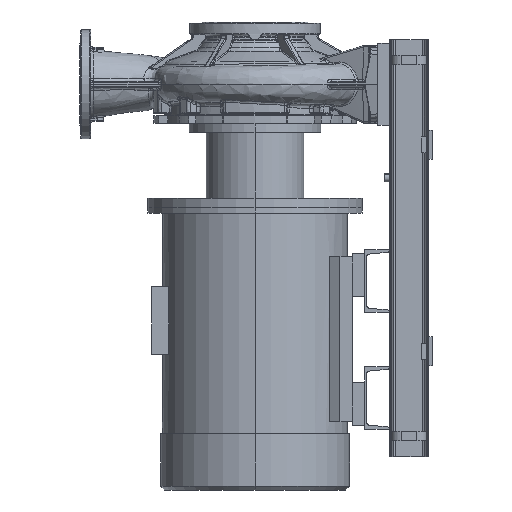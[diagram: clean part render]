
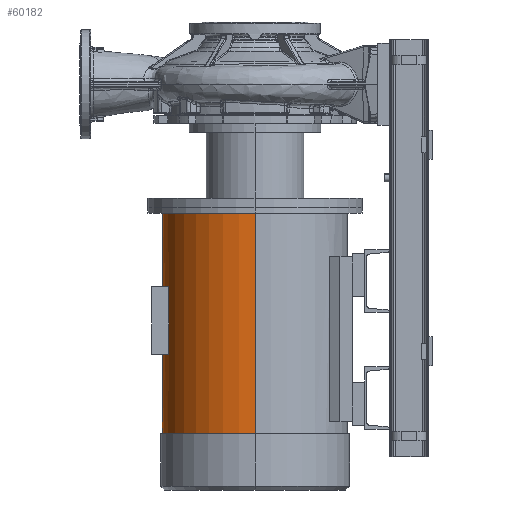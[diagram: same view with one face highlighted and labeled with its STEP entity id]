
A CAD part, left-side view. The second image highlights one B-rep face of the part: STEP entity #60182.
In plain terms, the highlighted cylindrical face has radius 237.5 mm (diameter 475 mm), a partial arc.
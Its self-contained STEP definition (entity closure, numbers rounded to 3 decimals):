
#229 = LINE ( 'NONE', #18828, #45956 ) ;
#8909 = VERTEX_POINT ( 'NONE', #24181 ) ;
#9633 = CIRCLE ( 'NONE', #42228, 237.5 ) ;
#13275 = DIRECTION ( 'NONE',  ( -1., 0., 0. ) ) ;
#15011 = VERTEX_POINT ( 'NONE', #55798 ) ;
#15881 = ORIENTED_EDGE ( 'NONE', *, *, #105074, .T. ) ;
#18631 = EDGE_CURVE ( 'NONE', #58511, #87261, #24638, .T. ) ;
#18828 = CARTESIAN_POINT ( 'NONE',  ( 87., 220.992, -1040.8 ) ) ;
#19387 = DIRECTION ( 'NONE',  ( -1., 0., 0. ) ) ;
#24181 = CARTESIAN_POINT ( 'NONE',  ( 237.5, 0., -330.8 ) ) ;
#24510 = LINE ( 'NONE', #54888, #73530 ) ;
#24638 = CIRCLE ( 'NONE', #68726, 237.5 ) ;
#26471 = CARTESIAN_POINT ( 'NONE',  ( 0., 0., -692.8 ) ) ;
#26836 = AXIS2_PLACEMENT_3D ( 'NONE', #75725, #107172, #66082 ) ;
#30721 = EDGE_LOOP ( 'NONE', ( #121647, #92861, #61223, #80899 ) ) ;
#32398 = VERTEX_POINT ( 'NONE', #73549 ) ;
#37875 = DIRECTION ( 'NONE',  ( 0., 0., -1. ) ) ;
#39651 = ORIENTED_EDGE ( 'NONE', *, *, #78105, .F. ) ;
#42228 = AXIS2_PLACEMENT_3D ( 'NONE', #76183, #128137, #87187 ) ;
#45956 = VECTOR ( 'NONE', #91944, 1000. ) ;
#51564 = VERTEX_POINT ( 'NONE', #132919 ) ;
#52895 = EDGE_CURVE ( 'NONE', #87261, #15011, #229, .T. ) ;
#53538 = EDGE_CURVE ( 'NONE', #105510, #123529, #9633, .T. ) ;
#54888 = CARTESIAN_POINT ( 'NONE',  ( 237.5, 0., -1040.8 ) ) ;
#55181 = CARTESIAN_POINT ( 'NONE',  ( -237.5, 0., -896.8 ) ) ;
#55798 = CARTESIAN_POINT ( 'NONE',  ( 87., 220.992, -518.8 ) ) ;
#56292 = DIRECTION ( 'NONE',  ( 0., 0., -1. ) ) ;
#57709 = EDGE_CURVE ( 'NONE', #15011, #51564, #70472, .T. ) ;
#58314 = ORIENTED_EDGE ( 'NONE', *, *, #125818, .T. ) ;
#58511 = VERTEX_POINT ( 'NONE', #82998 ) ;
#60182 = ADVANCED_FACE ( 'NONE', ( #125196, #69687 ), #104003, .T. ) ;
#61223 = ORIENTED_EDGE ( 'NONE', *, *, #52895, .T. ) ;
#61774 = LINE ( 'NONE', #88318, #63470 ) ;
#63090 = CARTESIAN_POINT ( 'NONE',  ( 237.5, 0., -896.8 ) ) ;
#63470 = VECTOR ( 'NONE', #56292, 1000. ) ;
#65318 = DIRECTION ( 'NONE',  ( 0., 0., -1. ) ) ;
#66082 = DIRECTION ( 'NONE',  ( -1., 0., 0. ) ) ;
#67494 = AXIS2_PLACEMENT_3D ( 'NONE', #114700, #125251, #19387 ) ;
#68431 = DIRECTION ( 'NONE',  ( 1., 0., 0. ) ) ;
#68726 = AXIS2_PLACEMENT_3D ( 'NONE', #26471, #37875, #68431 ) ;
#69687 = FACE_OUTER_BOUND ( 'NONE', #107507, .T. ) ;
#70472 = CIRCLE ( 'NONE', #95150, 237.5 ) ;
#72428 = CARTESIAN_POINT ( 'NONE',  ( 87., 220.992, -692.8 ) ) ;
#73530 = VECTOR ( 'NONE', #65318, 1000. ) ;
#73549 = CARTESIAN_POINT ( 'NONE',  ( -237.5, 0., -330.8 ) ) ;
#75725 = CARTESIAN_POINT ( 'NONE',  ( 0., 0., -330.8 ) ) ;
#76183 = CARTESIAN_POINT ( 'NONE',  ( 0., 0., -896.8 ) ) ;
#78105 = EDGE_CURVE ( 'NONE', #32398, #105510, #61774, .T. ) ;
#80899 = ORIENTED_EDGE ( 'NONE', *, *, #57709, .T. ) ;
#82998 = CARTESIAN_POINT ( 'NONE',  ( -87., 220.992, -692.8 ) ) ;
#87187 = DIRECTION ( 'NONE',  ( -1., 0., 0. ) ) ;
#87261 = VERTEX_POINT ( 'NONE', #72428 ) ;
#88318 = CARTESIAN_POINT ( 'NONE',  ( -237.5, 0., -1040.8 ) ) ;
#90717 = LINE ( 'NONE', #112574, #92402 ) ;
#91944 = DIRECTION ( 'NONE',  ( 0., 0., 1. ) ) ;
#92402 = VECTOR ( 'NONE', #123094, 1000. ) ;
#92861 = ORIENTED_EDGE ( 'NONE', *, *, #18631, .T. ) ;
#95150 = AXIS2_PLACEMENT_3D ( 'NONE', #127827, #116836, #13275 ) ;
#96432 = CIRCLE ( 'NONE', #26836, 237.5 ) ;
#97506 = ORIENTED_EDGE ( 'NONE', *, *, #53538, .F. ) ;
#100870 = EDGE_CURVE ( 'NONE', #51564, #58511, #90717, .T. ) ;
#104003 = CYLINDRICAL_SURFACE ( 'NONE', #67494, 237.5 ) ;
#105074 = EDGE_CURVE ( 'NONE', #32398, #8909, #96432, .T. ) ;
#105510 = VERTEX_POINT ( 'NONE', #55181 ) ;
#107172 = DIRECTION ( 'NONE',  ( 0., 0., -1. ) ) ;
#107507 = EDGE_LOOP ( 'NONE', ( #15881, #58314, #97506, #39651 ) ) ;
#112574 = CARTESIAN_POINT ( 'NONE',  ( -87., 220.992, -1040.8 ) ) ;
#114700 = CARTESIAN_POINT ( 'NONE',  ( 0., 0., -1040.8 ) ) ;
#116836 = DIRECTION ( 'NONE',  ( 0., 0., 1. ) ) ;
#121647 = ORIENTED_EDGE ( 'NONE', *, *, #100870, .T. ) ;
#123094 = DIRECTION ( 'NONE',  ( 0., 0., -1. ) ) ;
#123529 = VERTEX_POINT ( 'NONE', #63090 ) ;
#125196 = FACE_BOUND ( 'NONE', #30721, .T. ) ;
#125251 = DIRECTION ( 'NONE',  ( 0., 0., -1. ) ) ;
#125818 = EDGE_CURVE ( 'NONE', #8909, #123529, #24510, .T. ) ;
#127827 = CARTESIAN_POINT ( 'NONE',  ( 0., 0., -518.8 ) ) ;
#128137 = DIRECTION ( 'NONE',  ( 0., 0., -1. ) ) ;
#132919 = CARTESIAN_POINT ( 'NONE',  ( -87., 220.992, -518.8 ) ) ;
